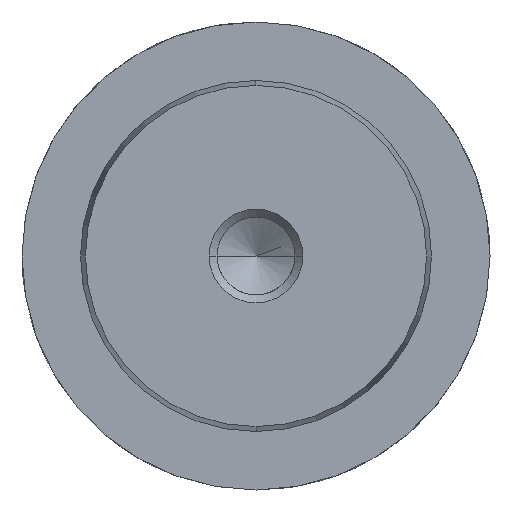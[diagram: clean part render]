
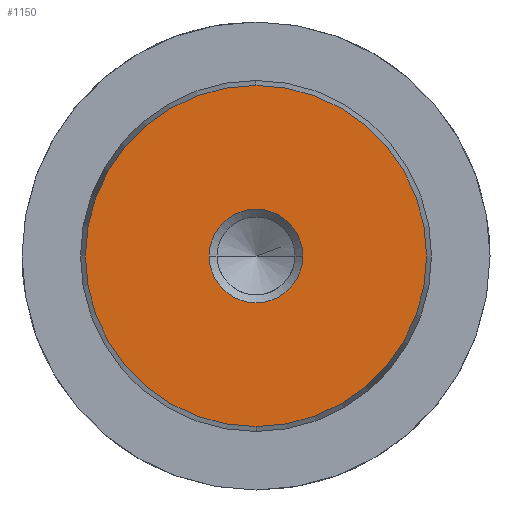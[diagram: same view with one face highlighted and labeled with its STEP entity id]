
A CAD part, left-side view. The second image highlights one B-rep face of the part: STEP entity #1150.
In plain terms, the highlighted planar face has unit normal (-1, 0, 0).
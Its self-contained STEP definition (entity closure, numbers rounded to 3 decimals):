
#1064=CARTESIAN_POINT('Vertex',(0.,0.,-14.578)) ;
#1067=CARTESIAN_POINT('Axis2P3D Location',(0.,0.,0.)) ;
#1071=CARTESIAN_POINT('Vertex',(0.,14.578,0.)) ;
#1074=CARTESIAN_POINT('Axis2P3D Location',(0.,0.,0.)) ;
#1078=CARTESIAN_POINT('Vertex',(0.,0.,14.578)) ;
#1100=CARTESIAN_POINT('Axis2P3D Location',(0.,0.,0.)) ;
#1104=CARTESIAN_POINT('Vertex',(0.,-14.578,0.)) ;
#1107=CARTESIAN_POINT('Axis2P3D Location',(0.,0.,0.)) ;
#1121=CARTESIAN_POINT('Axis2P3D Location',(0.,0.,0.)) ;
#1132=CARTESIAN_POINT('Axis2P3D Location',(0.,0.,0.)) ;
#1136=CARTESIAN_POINT('Vertex',(0.,4.,0.)) ;
#1138=CARTESIAN_POINT('Vertex',(0.,-4.,0.)) ;
#1141=CARTESIAN_POINT('Axis2P3D Location',(0.,0.,0.)) ;
#1068=DIRECTION('Axis2P3D Direction',(1.,0.,-0.)) ;
#1075=DIRECTION('Axis2P3D Direction',(1.,0.,-0.)) ;
#1101=DIRECTION('Axis2P3D Direction',(1.,0.,-0.)) ;
#1108=DIRECTION('Axis2P3D Direction',(1.,0.,-0.)) ;
#1122=DIRECTION('Axis2P3D Direction',(1.,0.,-0.)) ;
#1123=DIRECTION('Axis2P3D XDirection',(-0.,0.,-1.)) ;
#1133=DIRECTION('Axis2P3D Direction',(1.,0.,-0.)) ;
#1142=DIRECTION('Axis2P3D Direction',(1.,0.,-0.)) ;
#1069=AXIS2_PLACEMENT_3D('Circle Axis2P3D',#1067,#1068,$) ;
#1076=AXIS2_PLACEMENT_3D('Circle Axis2P3D',#1074,#1075,$) ;
#1102=AXIS2_PLACEMENT_3D('Circle Axis2P3D',#1100,#1101,$) ;
#1109=AXIS2_PLACEMENT_3D('Circle Axis2P3D',#1107,#1108,$) ;
#1124=AXIS2_PLACEMENT_3D('Plane Axis2P3D',#1121,#1122,#1123) ;
#1134=AXIS2_PLACEMENT_3D('Circle Axis2P3D',#1132,#1133,$) ;
#1143=AXIS2_PLACEMENT_3D('Circle Axis2P3D',#1141,#1142,$) ;
#1127=ORIENTED_EDGE('',*,*,#1073,.F.) ;
#1128=ORIENTED_EDGE('',*,*,#1111,.F.) ;
#1129=ORIENTED_EDGE('',*,*,#1106,.F.) ;
#1130=ORIENTED_EDGE('',*,*,#1080,.F.) ;
#1147=ORIENTED_EDGE('',*,*,#1140,.T.) ;
#1148=ORIENTED_EDGE('',*,*,#1145,.T.) ;
#1149=FACE_BOUND('',#1146,.T.) ;
#1150=ADVANCED_FACE('718-30x140',(#1131,#1149),#1125,.F.) ;
#1070=CIRCLE('generated circle',#1069,14.578) ;
#1077=CIRCLE('generated circle',#1076,14.578) ;
#1103=CIRCLE('generated circle',#1102,14.578) ;
#1110=CIRCLE('generated circle',#1109,14.578) ;
#1135=CIRCLE('generated circle',#1134,4.) ;
#1144=CIRCLE('generated circle',#1143,4.) ;
#1073=EDGE_CURVE('',#1065,#1072,#1070,.T.) ;
#1080=EDGE_CURVE('',#1072,#1079,#1077,.T.) ;
#1106=EDGE_CURVE('',#1079,#1105,#1103,.T.) ;
#1111=EDGE_CURVE('',#1105,#1065,#1110,.T.) ;
#1140=EDGE_CURVE('',#1137,#1139,#1135,.T.) ;
#1145=EDGE_CURVE('',#1139,#1137,#1144,.T.) ;
#1126=EDGE_LOOP('',(#1127,#1128,#1129,#1130)) ;
#1146=EDGE_LOOP('',(#1147,#1148)) ;
#1131=FACE_OUTER_BOUND('',#1126,.T.) ;
#1125=PLANE('Plane',#1124) ;
#1065=VERTEX_POINT('',#1064) ;
#1072=VERTEX_POINT('',#1071) ;
#1079=VERTEX_POINT('',#1078) ;
#1105=VERTEX_POINT('',#1104) ;
#1137=VERTEX_POINT('',#1136) ;
#1139=VERTEX_POINT('',#1138) ;
